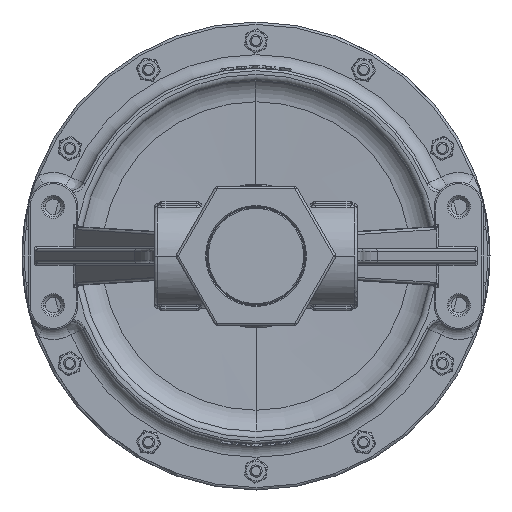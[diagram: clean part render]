
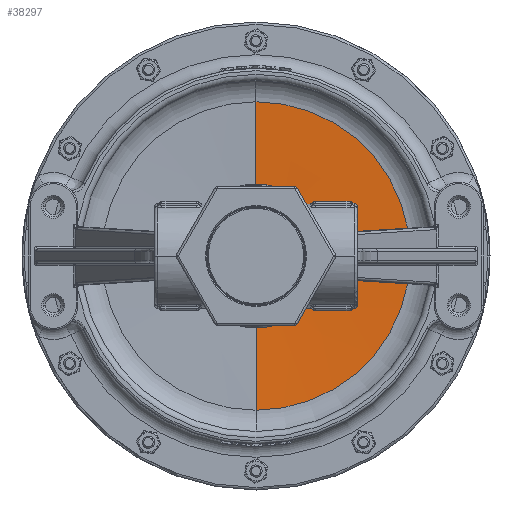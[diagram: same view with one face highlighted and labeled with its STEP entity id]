
A CAD part, front view. The second image highlights one B-rep face of the part: STEP entity #38297.
In plain terms, the highlighted conical face has half-angle 88 degrees and reference radius 79.692 mm.
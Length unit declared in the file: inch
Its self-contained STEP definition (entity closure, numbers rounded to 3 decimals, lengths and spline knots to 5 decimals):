
#5744 = DIRECTION ( 'NONE',  ( 0., 0., -1. ) ) ;
#5745 = DIRECTION ( 'NONE',  ( 0., -1., 0. ) ) ;
#5748 = CARTESIAN_POINT ( 'NONE',  ( 0., -0.25175, 0. ) ) ;
#12096 = CARTESIAN_POINT ( 'NONE',  ( 0., -0.25175, 3.1375 ) ) ;
#12097 = CARTESIAN_POINT ( 'NONE',  ( 0., -0.25175, -3.1375 ) ) ;
#12099 = CARTESIAN_POINT ( 'NONE',  ( 0., -0.177, 0.99682 ) ) ;
#25646 = CARTESIAN_POINT ( 'NONE',  ( 0., -0.177, -0.99682 ) ) ;
#37047 = ORIENTED_EDGE ( 'NONE', *, *, #64291, .T. ) ;
#37050 = ORIENTED_EDGE ( 'NONE', *, *, #64294, .T. ) ;
#37051 = ORIENTED_EDGE ( 'NONE', *, *, #64301, .F. ) ;
#37063 = ORIENTED_EDGE ( 'NONE', *, *, #64298, .F. ) ;
#38297 = ADVANCED_FACE ( 'NONE', ( #109774 ), #109794, .F. ) ;
#43001 = CIRCLE ( 'NONE', #91876, 0.99682 ) ;
#43003 = LINE ( 'NONE', #67464, #43009 ) ;
#43005 = LINE ( 'NONE', #67474, #43015 ) ;
#43007 = CIRCLE ( 'NONE', #91878, 3.1375 ) ;
#43009 = VECTOR ( 'NONE', #67439, 39.37008 ) ;
#43015 = VECTOR ( 'NONE', #67430, 39.37008 ) ;
#53114 = VERTEX_POINT ( 'NONE', #12096 ) ;
#53115 = VERTEX_POINT ( 'NONE', #12097 ) ;
#53117 = VERTEX_POINT ( 'NONE', #12099 ) ;
#60626 = VERTEX_POINT ( 'NONE', #25646 ) ;
#64291 = EDGE_CURVE ( 'NONE', #60626, #53117, #43001, .T. ) ;
#64294 = EDGE_CURVE ( 'NONE', #53117, #53114, #43003, .T. ) ;
#64298 = EDGE_CURVE ( 'NONE', #53115, #53114, #43007, .T. ) ;
#64301 = EDGE_CURVE ( 'NONE', #60626, #53115, #43005, .T. ) ;
#67430 = DIRECTION ( 'NONE',  ( 0., -0.035, -0.999 ) ) ;
#67439 = DIRECTION ( 'NONE',  ( 0., -0.035, 0.999 ) ) ;
#67464 = CARTESIAN_POINT ( 'NONE',  ( 0., -0.25175, 3.1375 ) ) ;
#67465 = CARTESIAN_POINT ( 'NONE',  ( 0., -0.177, 0. ) ) ;
#67467 = DIRECTION ( 'NONE',  ( 0., 1., 0. ) ) ;
#67469 = DIRECTION ( 'NONE',  ( 0., 0., 1. ) ) ;
#67474 = CARTESIAN_POINT ( 'NONE',  ( 0., -0.25175, -3.1375 ) ) ;
#67476 = CARTESIAN_POINT ( 'NONE',  ( 0., -0.25175, 0. ) ) ;
#67478 = DIRECTION ( 'NONE',  ( 0., 1., 0. ) ) ;
#67480 = DIRECTION ( 'NONE',  ( 0., 0., 1. ) ) ;
#68639 = EDGE_LOOP ( 'NONE', ( #37047, #37050, #37063, #37051 ) ) ;
#77993 = AXIS2_PLACEMENT_3D ( 'NONE', #5748, #5745, #5744 ) ;
#91876 = AXIS2_PLACEMENT_3D ( 'NONE', #67465, #67467, #67469 ) ;
#91878 = AXIS2_PLACEMENT_3D ( 'NONE', #67476, #67478, #67480 ) ;
#109774 = FACE_OUTER_BOUND ( 'NONE', #68639, .T. ) ;
#109794 = CONICAL_SURFACE ( 'NONE', #77993, 3.1375, 1.536 ) ;
